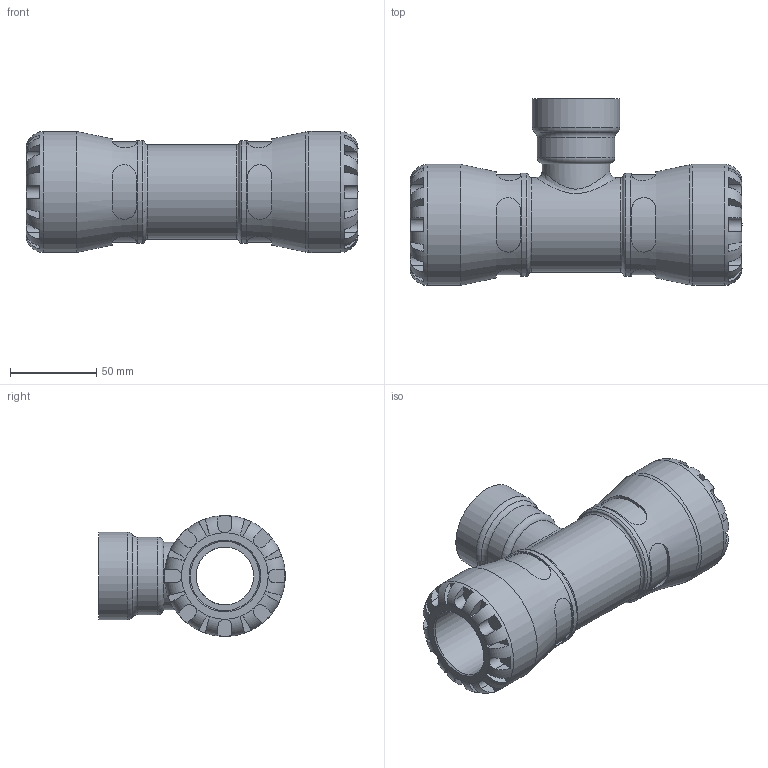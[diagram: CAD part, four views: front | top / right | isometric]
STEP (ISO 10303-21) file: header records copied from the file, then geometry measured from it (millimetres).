
FILE_DESCRIPTION(/* description */ ('PLASSON TEE WITH THREADED FEMALE OFFTAKE 40X1 1/4" SERIES 1'),/* implementation_level */ '2;1');
FILE_NAME(/* name */ 'C:\Dropbox\KIMPROJECTS-Inventor\99-16-3568-Processing\S1\53mp\1014\101400040013_191400040013.ipt.stp',/* time_stamp */ '2019-10-29T10:12:13+02:00',/* author */ ('KIM'),/* organization */ (''),/* preprocessor_version */ 'ST-DEVELOPER v15.6',/* originating_system */ 'Autodesk Inventor 2015',/* authorisation */ '');
FILE_SCHEMA (('AUTOMOTIVE_DESIGN { 1 0 10303 214 3 1 1 }'));
Length unit declared in the file: millimetre
Products named in the file (1): 101400040013_191400040013
Bounding box: 192 x 108 x 70 mm (x, y, z)
Volume: 374551.1 mm3; surface area: 82908.5 mm2
Topology: 1 solids, 1 shells, 202 faces, 510 edges, 319 vertices
Faces by surface type: plane 118, cylinder 69, torus 12, cone 2, bspline 1
Full cylindrical faces by diameter (mm): 33.109 x1, 33.333 x1, 38.952 x2, 40 x2, 44.795 x1, 50.638 x1, 54.6 x1, 59.5 x2, 70 x2
Entity records: 7874 total; most frequent: CARTESIAN_POINT 3123, ORIENTED_EDGE 932, DIRECTION 914, EDGE_CURVE 466, AXIS2_PLACEMENT_3D 377, VERTEX_POINT 305, EDGE_LOOP 245, STYLED_ITEM 203
